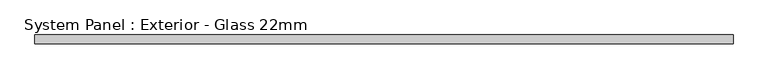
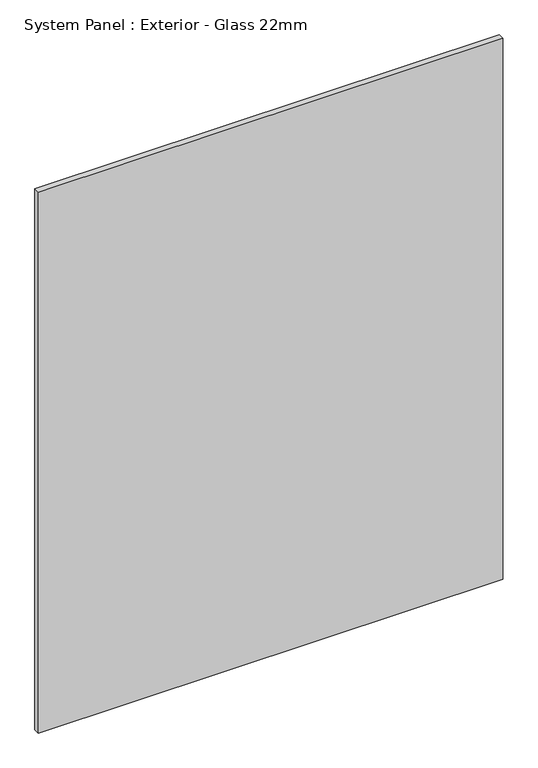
"""IFC4 building model written with IfcOpenShell, lengths in millimetres: plate geometry, System Panel : Exterior - Glass 22mm."""

from ifc_helpers import new_model, si_unit, origin, origin_with_axes, place, context, project, spatial, polyline, outline, extrude, source, transform, mapped, element, save


def system_panel_exterior_glass_22mm_2c8f2951(model_context):
    return source(origin(), model_context, "Body", "SweptSolid", [
        extrude(outline(polyline([(852.5, -50.0), (-852.5, -50.0), (-852.5, -28.0), (852.5, -28.0), (852.5, -50.0)])), origin_with_axes(), (0.0, 0.0, 1.0), 2100.0),
    ])


if __name__ == "__main__":
    model = new_model("IFC4")
    model_context = context("Model", 3, world=origin())
    ifc_project = project(units=[si_unit("LENGTHUNIT", "METRE", prefix="MILLI")], contexts=[model_context])
    site = spatial("IfcSite", under=ifc_project)
    building = spatial("IfcBuilding", under=site)
    placement = place(None, origin())
    system_panel_exterior_glass_22mm_shape = system_panel_exterior_glass_22mm_2c8f2951(model_context)
    element("IfcPlate", 1, ObjectType="System Panel : Exterior - Glass 22mm", at=placement, inside=building, context=model_context, shape_type="MappedRepresentation", body=[
        mapped(system_panel_exterior_glass_22mm_shape, transform((0.0, 0.0, 0.0), x_axis=(1.0, 0.0, 0.0), y_axis=(0.0, 1.0, 0.0), z_axis=(0.0, 0.0, 1.0))),
    ])
    save(model, "model.ifc")
